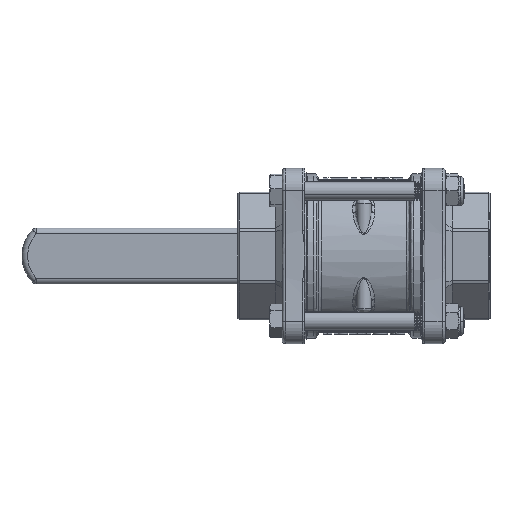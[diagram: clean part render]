
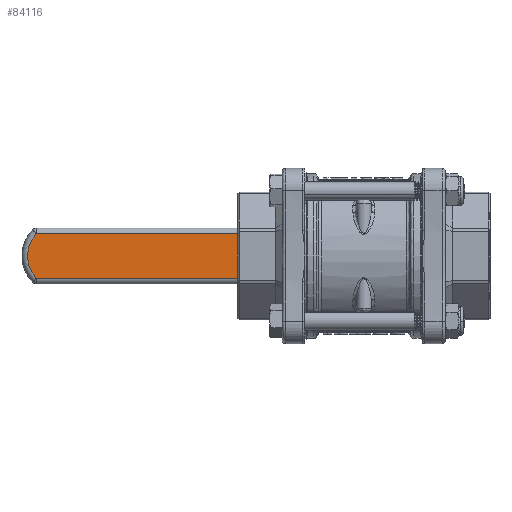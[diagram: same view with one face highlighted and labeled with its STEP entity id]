
A CAD part, front view. The second image highlights one B-rep face of the part: STEP entity #84116.
In plain terms, the highlighted planar face has unit normal (0, -1, 0).
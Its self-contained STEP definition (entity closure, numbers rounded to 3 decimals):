
#4753 = LINE ( 'NONE', #67150, #4759 ) ;
#4759 = VECTOR ( 'NONE', #67146, 1000. ) ;
#4823 = LINE ( 'NONE', #67207, #4829 ) ;
#4829 = VECTOR ( 'NONE', #67208, 1000. ) ;
#4831 = LINE ( 'NONE', #67200, #4835 ) ;
#4833 = CIRCLE ( 'NONE', #70060, 14. ) ;
#4835 = VECTOR ( 'NONE', #67201, 1000. ) ;
#6456 = EDGE_LOOP ( 'NONE', ( #87077, #87079, #87082, #87084 ) ) ;
#40183 = AXIS2_PLACEMENT_3D ( 'NONE', #57401, #57409, #57410 ) ;
#43329 = FACE_OUTER_BOUND ( 'NONE', #6456, .T. ) ;
#48439 = EDGE_CURVE ( 'NONE', #52321, #52322, #4753, .T. ) ;
#48461 = EDGE_CURVE ( 'NONE', #52344, #52321, #4823, .T. ) ;
#48463 = EDGE_CURVE ( 'NONE', #52349, #52322, #4831, .T. ) ;
#48464 = EDGE_CURVE ( 'NONE', #52349, #52344, #4833, .T. ) ;
#52321 = VERTEX_POINT ( 'NONE', #58924 ) ;
#52322 = VERTEX_POINT ( 'NONE', #58933 ) ;
#52344 = VERTEX_POINT ( 'NONE', #58955 ) ;
#52349 = VERTEX_POINT ( 'NONE', #58960 ) ;
#57401 = CARTESIAN_POINT ( 'NONE',  ( 95., -3., -9.75 ) ) ;
#57406 = PLANE ( 'NONE',  #40183 ) ;
#57409 = DIRECTION ( 'NONE',  ( 0., 1., 0. ) ) ;
#57410 = DIRECTION ( 'NONE',  ( 0., 0., 1. ) ) ;
#58924 = CARTESIAN_POINT ( 'NONE',  ( 0., -3., 9.75 ) ) ;
#58933 = CARTESIAN_POINT ( 'NONE',  ( 0., -3., -9.75 ) ) ;
#58955 = CARTESIAN_POINT ( 'NONE',  ( 88.547, -3., 9.75 ) ) ;
#58960 = CARTESIAN_POINT ( 'NONE',  ( 88.547, -3., -9.75 ) ) ;
#67146 = DIRECTION ( 'NONE',  ( 0., 0., -1. ) ) ;
#67150 = CARTESIAN_POINT ( 'NONE',  ( 0., -3., -9.75 ) ) ;
#67200 = CARTESIAN_POINT ( 'NONE',  ( 95., -3., -9.75 ) ) ;
#67201 = DIRECTION ( 'NONE',  ( -1., 0., 0. ) ) ;
#67207 = CARTESIAN_POINT ( 'NONE',  ( 95., -3., 9.75 ) ) ;
#67208 = DIRECTION ( 'NONE',  ( -1., 0., 0. ) ) ;
#67216 = CARTESIAN_POINT ( 'NONE',  ( 78.5, -3., 0. ) ) ;
#67217 = DIRECTION ( 'NONE',  ( 0., -1., 0. ) ) ;
#67218 = DIRECTION ( 'NONE',  ( 0., 0., 1. ) ) ;
#70060 = AXIS2_PLACEMENT_3D ( 'NONE', #67216, #67217, #67218 ) ;
#84116 = ADVANCED_FACE ( 'NONE', ( #43329 ), #57406, .F. ) ;
#87077 = ORIENTED_EDGE ( 'NONE', *, *, #48463, .F. ) ;
#87079 = ORIENTED_EDGE ( 'NONE', *, *, #48464, .T. ) ;
#87082 = ORIENTED_EDGE ( 'NONE', *, *, #48461, .T. ) ;
#87084 = ORIENTED_EDGE ( 'NONE', *, *, #48439, .T. ) ;
